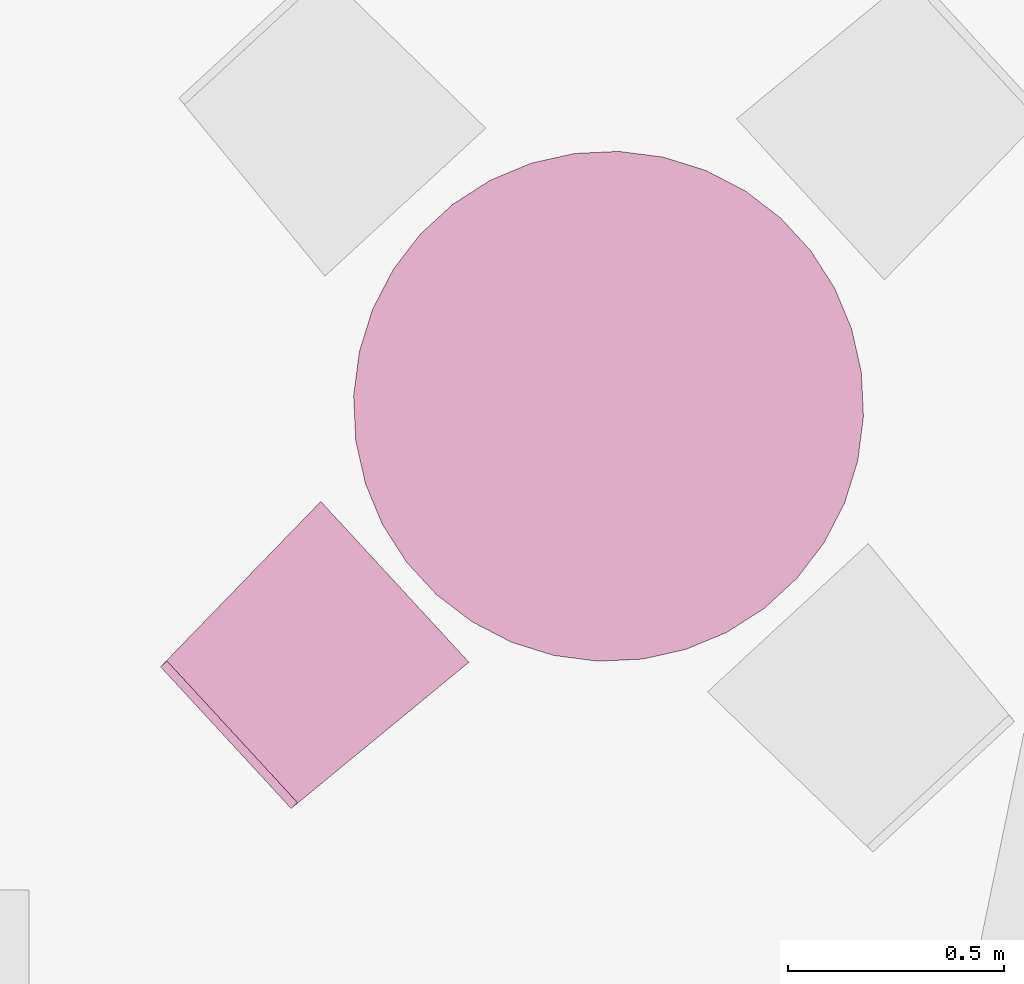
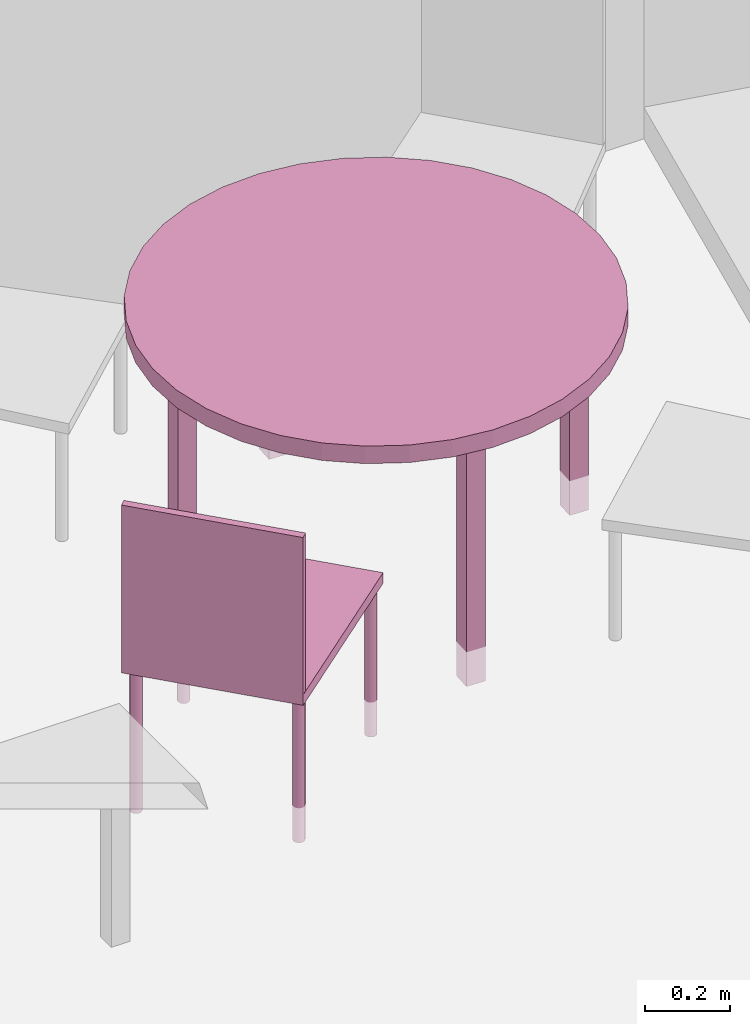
"""IFC4 building model written with IfcOpenShell, lengths in metres."""

from ifc_helpers import new_model, entity, si_unit, converted_unit, derived_unit, frame, origin, place, context, subcontext, project, spatial, faceted_brep, element, save


model = new_model("IFC4")

# Units and contexts
model_context = context("Model", 3, precision=1e-05, world=origin())
body_context = subcontext(model_context, "Body", "Model", "MODEL_VIEW")
ifc_project = project(units=[si_unit("LENGTHUNIT", "METRE"), si_unit("AREAUNIT", "SQUARE_METRE"), si_unit("VOLUMEUNIT", "CUBIC_METRE"), si_unit("MASSUNIT", "GRAM", prefix="KILO"), converted_unit("PLANEANGLEUNIT", "DEGREE", entity("IfcPlaneAngleMeasure", 0.0174532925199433), si_unit("PLANEANGLEUNIT", "RADIAN"), dimensions=[0, 0, 0, 0, 0, 0, 0]), derived_unit("THERMALTRANSMITTANCEUNIT", [(si_unit("POWERUNIT", "WATT"), 1), (si_unit("THERMODYNAMICTEMPERATUREUNIT", "KELVIN"), -1), (si_unit("LENGTHUNIT", "METRE"), -2)]), derived_unit("VOLUMETRICFLOWRATEUNIT", [(si_unit("LENGTHUNIT", "METRE"), 3), (converted_unit("TIMEUNIT", "hour", entity("IfcTimeMeasure", 3600.0), si_unit("TIMEUNIT", "SECOND"), dimensions=[0, 0, 1, 0, 0, 0, 0]), -1), (si_unit("LENGTHUNIT", "METRE"), -1)])], contexts=[model_context])

# Building, storeys
building_placement = place(None, origin())
building = spatial("IfcBuilding", under=ifc_project, at=building_placement, Name="HABITATGE PLURIFAMILIAR", CompositionType="ELEMENT")
storey_1_placement = place(building_placement, frame((0.0, 0.0, 12.27)))
storey_1 = spatial("IfcBuildingStorey", under=building, at=storey_1_placement, Name="PLANTA TERCERA", CompositionType="ELEMENT", Elevation=12.27)
storey_2_placement = place(storey_1_placement, frame((0.0, 0.0, 9.26)))
storey_2 = spatial("IfcBuildingStorey", under=storey_1, at=storey_2_placement, Name="NOU", CompositionType="PARTIAL")

# Furniture
furniture_1_placement = place(storey_2_placement, frame((423.769521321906, 21.0427604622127, -9.3599999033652)))
element("IfcFurniture", 1, at=furniture_1_placement, inside=storey_2, Name="Taula D120_P3", context=body_context, shape_type="Brep", body=[
    faceted_brep([(0.566234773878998, 0.0, 0.7), (0.669181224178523, 0.00472505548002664, 0.7), (0.769743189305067, 0.0272547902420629, 0.7), (0.864865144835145, 0.066904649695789, 0.7), (0.95165685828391, 0.122469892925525, 0.7), (1.02748120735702, 0.192262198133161, 0.7), (1.09003430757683, 0.274160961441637, 0.7), (1.13741551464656, 0.365677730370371, 0.7), (1.16818517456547, 0.46403181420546, 0.7), (1.18140836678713, 0.566234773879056, 0.7), (1.17668331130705, 0.669181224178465, 0.7), (1.15415357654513, 0.769743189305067, 0.7), (1.1145037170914, 0.864865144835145, 0.7), (1.05893847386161, 0.95165685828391, 0.7), (0.98914616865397, 1.02748120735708, 0.7), (0.907247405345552, 1.09003430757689, 0.7), (0.815730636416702, 1.13741551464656, 0.7), (0.717376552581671, 1.16818517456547, 0.7), (0.615173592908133, 1.18140836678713, 0.7), (0.512227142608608, 1.1766833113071, 0.7), (0.411665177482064, 1.15415357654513, 0.7), (0.316543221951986, 1.1145037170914, 0.7), (0.229751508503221, 1.05893847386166, 0.7), (0.15392715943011, 0.989146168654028, 0.7), (0.0913740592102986, 0.907247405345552, 0.7), (0.0439928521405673, 0.81573063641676, 0.7), (0.0132231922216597, 0.717376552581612, 0.7), (0.0, 0.615173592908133, 0.7), (0.00472505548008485, 0.512227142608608, 0.7), (0.0272547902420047, 0.411665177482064, 0.7), (0.0669046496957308, 0.316543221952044, 0.7), (0.122469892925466, 0.229751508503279, 0.7), (0.192262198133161, 0.15392715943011, 0.7), (0.274160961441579, 0.0913740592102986, 0.7), (0.365677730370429, 0.0439928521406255, 0.7), (0.46403181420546, 0.0132231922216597, 0.7), (0.566234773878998, 0.0, 0.75), (0.46403181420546, 0.0132231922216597, 0.75), (0.365677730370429, 0.0439928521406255, 0.75), (0.274160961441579, 0.0913740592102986, 0.75), (0.192262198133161, 0.15392715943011, 0.75), (0.122469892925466, 0.229751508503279, 0.75), (0.0669046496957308, 0.316543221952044, 0.75), (0.0272547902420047, 0.411665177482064, 0.75), (0.00472505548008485, 0.512227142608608, 0.75), (0.0, 0.615173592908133, 0.75), (0.0132231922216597, 0.717376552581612, 0.75), (0.0439928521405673, 0.81573063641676, 0.75), (0.0913740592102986, 0.907247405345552, 0.75), (0.15392715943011, 0.989146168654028, 0.75), (0.229751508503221, 1.05893847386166, 0.75), (0.316543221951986, 1.1145037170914, 0.75), (0.411665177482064, 1.15415357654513, 0.75), (0.512227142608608, 1.1766833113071, 0.75), (0.615173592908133, 1.18140836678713, 0.75), (0.717376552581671, 1.16818517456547, 0.75), (0.815730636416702, 1.13741551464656, 0.75), (0.907247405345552, 1.09003430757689, 0.75), (0.98914616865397, 1.02748120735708, 0.75), (1.05893847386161, 0.95165685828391, 0.75), (1.1145037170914, 0.864865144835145, 0.75), (1.15415357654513, 0.769743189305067, 0.75), (1.17668331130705, 0.669181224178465, 0.75), (1.18140836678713, 0.566234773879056, 0.75), (1.16818517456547, 0.46403181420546, 0.75), (1.13741551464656, 0.365677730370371, 0.75), (1.09003430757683, 0.274160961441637, 0.75), (1.02748120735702, 0.192262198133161, 0.75), (0.95165685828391, 0.122469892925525, 0.75), (0.864865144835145, 0.066904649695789, 0.75), (0.769743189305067, 0.0272547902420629, 0.75), (0.669181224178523, 0.00472505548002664, 0.75)], [[[0, 1, 2, 3, 4, 5, 6, 7, 8, 9, 10, 11, 12, 13, 14, 15, 16, 17, 18, 19, 20, 21, 22, 23, 24, 25, 26, 27, 28, 29, 30, 31, 32, 33, 34, 35]], [[36, 37, 38, 39, 40, 41, 42, 43, 44, 45, 46, 47, 48, 49, 50, 51, 52, 53, 54, 55, 56, 57, 58, 59, 60, 61, 62, 63, 64, 65, 66, 67, 68, 69, 70, 71]], [[1, 0, 36, 71]], [[2, 1, 71, 70]], [[3, 2, 70, 69]], [[4, 3, 69, 68]], [[5, 4, 68, 67]], [[6, 5, 67, 66]], [[7, 6, 66, 65]], [[8, 7, 65, 64]], [[9, 8, 64, 63]], [[10, 9, 63, 62]], [[11, 10, 62, 61]], [[12, 11, 61, 60]], [[13, 12, 60, 59]], [[14, 13, 59, 58]], [[15, 14, 58, 57]], [[16, 15, 57, 56]], [[17, 16, 56, 55]], [[18, 17, 55, 54]], [[19, 18, 54, 53]], [[20, 19, 53, 52]], [[21, 20, 52, 51]], [[22, 21, 51, 50]], [[23, 22, 50, 49]], [[24, 23, 49, 48]], [[25, 24, 48, 47]], [[26, 25, 47, 46]], [[27, 26, 46, 45]], [[28, 27, 45, 44]], [[29, 28, 44, 43]], [[30, 29, 43, 42]], [[31, 30, 42, 41]], [[32, 31, 41, 40]], [[33, 32, 40, 39]], [[34, 33, 39, 38]], [[35, 34, 38, 37]], [[0, 35, 37, 36]]], orient=[[False], [False], [False], [False], [False], [False], [False], [False], [False], [False], [False], [False], [False], [False], [False], [False], [False], [False], [False], [False], [False], [False], [False], [False], [False], [False], [False], [False], [False], [False], [False], [False], [False], [False], [False], [False], [False], [False]]),
    faceted_brep([(1.13402659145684, 0.582336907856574, 0.0), (1.08406943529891, 0.584406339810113, 0.0), (1.08200000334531, 0.534449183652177, 0.0), (1.1319571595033, 0.532379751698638, 0.0), (1.08406943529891, 0.584406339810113, 0.7), (1.13402659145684, 0.582336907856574, 0.7), (1.1319571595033, 0.532379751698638, 0.7), (1.08200000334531, 0.534449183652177, 0.7)], [[[0, 1, 2, 3]], [[4, 5, 6, 7]], [[1, 0, 5, 4]], [[2, 1, 4, 7]], [[3, 2, 7, 6]], [[0, 3, 6, 5]]], orient=[[False], [False], [False], [False], [False], [False]]),
    faceted_brep([(0.638184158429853, 1.13286481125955, 0.0), (0.588227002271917, 1.13493424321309, 0.0), (0.586157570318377, 1.08497708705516, 0.0), (0.636114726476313, 1.08290765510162, 0.0), (0.588227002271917, 1.13493424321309, 0.7), (0.638184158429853, 1.13286481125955, 0.7), (0.636114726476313, 1.08290765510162, 0.7), (0.586157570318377, 1.08497708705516, 0.7)], [[[0, 1, 2, 3]], [[4, 5, 6, 7]], [[1, 0, 5, 4]], [[2, 1, 4, 7]], [[3, 2, 7, 6]], [[0, 3, 6, 5]]], orient=[[False], [False], [False], [False], [False], [False]]),
    faceted_brep([(0.574688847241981, 0.0976411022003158, 0.0), (0.524731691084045, 0.0997105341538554, 0.0), (0.522662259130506, 0.0497533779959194, 0.0), (0.572619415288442, 0.0476839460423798, 0.0), (0.524731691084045, 0.0997105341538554, 0.7), (0.574688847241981, 0.0976411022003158, 0.7), (0.572619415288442, 0.0476839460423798, 0.7), (0.522662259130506, 0.0497533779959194, 0.7)], [[[0, 1, 2, 3]], [[4, 5, 6, 7]], [[1, 0, 5, 4]], [[2, 1, 4, 7]], [[3, 2, 7, 6]], [[0, 3, 6, 5]]], orient=[[False], [False], [False], [False], [False], [False]]),
    faceted_brep([(0.098150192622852, 0.625247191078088, 0.0), (0.0481930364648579, 0.627316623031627, 0.0), (0.0461236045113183, 0.577359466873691, 0.0), (0.0960807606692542, 0.575290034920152, 0.0), (0.0481930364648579, 0.627316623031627, 0.7), (0.098150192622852, 0.625247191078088, 0.7), (0.0960807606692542, 0.575290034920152, 0.7), (0.0461236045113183, 0.577359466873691, 0.7)], [[[0, 1, 2, 3]], [[4, 5, 6, 7]], [[1, 0, 5, 4]], [[2, 1, 4, 7]], [[3, 2, 7, 6]], [[0, 3, 6, 5]]], orient=[[False], [False], [False], [False], [False], [False]]),
])
furniture_2_placement = place(storey_2_placement, frame((423.322068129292, 20.7014725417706, -9.36074913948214)))
element("IfcFurniture", 2, at=furniture_2_placement, inside=storey_2, Name="Cadira confident_P3", context=body_context, shape_type="Brep", body=[
    faceted_brep([(0.359177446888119, 0.687513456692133, 0.0), (0.357422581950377, 0.685589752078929, 0.0), (0.356028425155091, 0.683390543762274, 0.0), (0.355037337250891, 0.680982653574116, 0.0), (0.354479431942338, 0.678439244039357, 0.0), (0.354371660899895, 0.675837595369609, 0.0), (0.354717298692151, 0.673256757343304, 0.0), (0.355505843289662, 0.67077514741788, 0.0), (0.35671333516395, 0.668468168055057, 0.0), (0.358303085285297, 0.666405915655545, 0.0), (0.3602267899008, 0.664651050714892, 0.0), (0.362425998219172, 0.663256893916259, 0.0), (0.364833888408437, 0.662265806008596, 0.0), (0.367377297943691, 0.661707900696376, 0.0), (0.369978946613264, 0.661600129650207, 0.0), (0.372559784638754, 0.661945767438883, 0.0), (0.375041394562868, 0.662734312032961, 0.0), (0.377348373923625, 0.663941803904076, 0.0), (0.379410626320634, 0.665531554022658, 0.0), (0.381165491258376, 0.66745525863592, 0.0), (0.382559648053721, 0.669654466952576, 0.0), (0.383550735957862, 0.672062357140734, 0.0), (0.384108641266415, 0.674605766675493, 0.0), (0.3842164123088, 0.677207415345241, 0.0), (0.383870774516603, 0.679788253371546, 0.0), (0.383082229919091, 0.68226986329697, 0.0), (0.381874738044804, 0.684576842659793, 0.0), (0.380284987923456, 0.686639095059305, 0.0), (0.378361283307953, 0.688393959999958, 0.0), (0.376162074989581, 0.689788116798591, 0.0), (0.373754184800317, 0.690779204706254, 0.0), (0.371210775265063, 0.691337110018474, 0.0), (0.368609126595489, 0.691444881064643, 0.0), (0.366028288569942, 0.691099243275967, 0.0), (0.363546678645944, 0.690310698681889, 0.0), (0.361239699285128, 0.689103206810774, 0.0), (0.359177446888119, 0.687513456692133, 0.448281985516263), (0.361239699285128, 0.689103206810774, 0.448281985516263), (0.363546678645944, 0.690310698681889, 0.448281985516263), (0.366028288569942, 0.691099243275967, 0.448281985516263), (0.368609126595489, 0.691444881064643, 0.448281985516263), (0.371210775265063, 0.691337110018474, 0.448281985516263), (0.373754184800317, 0.690779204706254, 0.448281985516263), (0.376162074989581, 0.689788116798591, 0.448281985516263), (0.378361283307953, 0.688393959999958, 0.448281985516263), (0.380284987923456, 0.686639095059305, 0.448281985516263), (0.381874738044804, 0.684576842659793, 0.448281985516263), (0.383082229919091, 0.68226986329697, 0.448281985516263), (0.383870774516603, 0.679788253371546, 0.448281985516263), (0.3842164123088, 0.677207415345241, 0.448281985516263), (0.384108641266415, 0.674605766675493, 0.448281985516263), (0.383550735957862, 0.672062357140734, 0.448281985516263), (0.382559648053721, 0.669654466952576, 0.448281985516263), (0.381165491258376, 0.66745525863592, 0.448281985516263), (0.379410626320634, 0.665531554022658, 0.448281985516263), (0.377348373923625, 0.663941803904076, 0.448281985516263), (0.375041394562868, 0.662734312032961, 0.448281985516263), (0.372559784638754, 0.661945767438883, 0.448281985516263), (0.369978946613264, 0.661600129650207, 0.448281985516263), (0.367377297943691, 0.661707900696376, 0.448281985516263), (0.364833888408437, 0.662265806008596, 0.448281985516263), (0.362425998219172, 0.663256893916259, 0.448281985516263), (0.3602267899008, 0.664651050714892, 0.448281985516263), (0.358303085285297, 0.666405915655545, 0.448281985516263), (0.35671333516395, 0.668468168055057, 0.448281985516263), (0.355505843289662, 0.67077514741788, 0.448281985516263), (0.354717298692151, 0.673256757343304, 0.448281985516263), (0.354371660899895, 0.675837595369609, 0.448281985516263), (0.354479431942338, 0.678439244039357, 0.448281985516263), (0.355037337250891, 0.680982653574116, 0.448281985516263), (0.356028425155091, 0.683390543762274, 0.448281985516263), (0.357422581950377, 0.685589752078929, 0.448281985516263)], [[[0, 1, 2, 3, 4, 5, 6, 7, 8, 9, 10, 11, 12, 13, 14, 15, 16, 17, 18, 19, 20, 21, 22, 23, 24, 25, 26, 27, 28, 29, 30, 31, 32, 33, 34, 35]], [[36, 37, 38, 39, 40, 41, 42, 43, 44, 45, 46, 47, 48, 49, 50, 51, 52, 53, 54, 55, 56, 57, 58, 59, 60, 61, 62, 63, 64, 65, 66, 67, 68, 69, 70, 71]], [[1, 0, 36, 71]], [[2, 1, 71, 70]], [[3, 2, 70, 69]], [[4, 3, 69, 68]], [[5, 4, 68, 67]], [[6, 5, 67, 66]], [[7, 6, 66, 65]], [[8, 7, 65, 64]], [[9, 8, 64, 63]], [[10, 9, 63, 62]], [[11, 10, 62, 61]], [[12, 11, 61, 60]], [[13, 12, 60, 59]], [[14, 13, 59, 58]], [[15, 14, 58, 57]], [[16, 15, 57, 56]], [[17, 16, 56, 55]], [[18, 17, 55, 54]], [[19, 18, 54, 53]], [[20, 19, 53, 52]], [[21, 20, 52, 51]], [[22, 21, 51, 50]], [[23, 22, 50, 49]], [[24, 23, 49, 48]], [[25, 24, 48, 47]], [[26, 25, 47, 46]], [[27, 26, 46, 45]], [[28, 27, 45, 44]], [[29, 28, 44, 43]], [[30, 29, 43, 42]], [[31, 30, 42, 41]], [[32, 31, 41, 40]], [[33, 32, 40, 39]], [[34, 33, 39, 38]], [[35, 34, 38, 37]], [[0, 35, 37, 36]]], orient=[[False], [False], [False], [False], [False], [False], [False], [False], [False], [False], [False], [False], [False], [False], [False], [False], [False], [False], [False], [False], [False], [False], [False], [False], [False], [False], [False], [False], [False], [False], [False], [False], [False], [False], [False], [False], [False], [False]]),
    faceted_brep([(0.0378673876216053, 0.353830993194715, 0.0), (0.0361125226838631, 0.351907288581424, 0.0), (0.0347183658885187, 0.349708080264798, 0.0), (0.033727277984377, 0.347300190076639, 0.0), (0.033169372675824, 0.34475678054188, 0.0), (0.0330616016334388, 0.342155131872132, 0.0), (0.0334072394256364, 0.339574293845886, 0.0), (0.0341957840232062, 0.337092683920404, 0.0), (0.0354032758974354, 0.33478570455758, 0.0), (0.036993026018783, 0.332723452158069, 0.0), (0.0389167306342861, 0.330968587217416, 0.0), (0.0411159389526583, 0.329574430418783, 0.0), (0.0435238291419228, 0.32858334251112, 0.0), (0.0460672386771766, 0.328025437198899, 0.0), (0.0486688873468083, 0.327917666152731, 0.0), (0.0512497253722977, 0.328263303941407, 0.0), (0.0537313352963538, 0.329051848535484, 0.0), (0.0560383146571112, 0.33025934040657, 0.0), (0.0581005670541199, 0.33184909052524, 0.0), (0.0598554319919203, 0.333772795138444, 0.0), (0.0612495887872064, 0.335972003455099, 0.0), (0.0622406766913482, 0.338379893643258, 0.0), (0.0627985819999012, 0.340923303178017, 0.0), (0.0629063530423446, 0.343524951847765, 0.0), (0.0625607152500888, 0.346105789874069, 0.0), (0.0617721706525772, 0.348587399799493, 0.0), (0.0605646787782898, 0.350894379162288, 0.0), (0.0589749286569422, 0.352956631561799, 0.0), (0.0570512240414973, 0.354711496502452, 0.0), (0.0548520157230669, 0.356105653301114, 0.0), (0.0524441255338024, 0.357096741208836, 0.0), (0.0499007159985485, 0.357654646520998, 0.0), (0.0472990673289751, 0.357762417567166, 0.0), (0.0447182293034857, 0.35741677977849, 0.0), (0.0422366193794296, 0.356628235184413, 0.0), (0.039929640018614, 0.355420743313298, 0.0), (0.0378673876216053, 0.353830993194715, 0.448281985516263), (0.039929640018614, 0.355420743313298, 0.448281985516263), (0.0422366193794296, 0.356628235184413, 0.448281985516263), (0.0447182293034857, 0.35741677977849, 0.448281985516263), (0.0472990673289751, 0.357762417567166, 0.448281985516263), (0.0499007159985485, 0.357654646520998, 0.448281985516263), (0.0524441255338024, 0.357096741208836, 0.448281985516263), (0.0548520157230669, 0.356105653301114, 0.448281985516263), (0.0570512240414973, 0.354711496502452, 0.448281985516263), (0.0589749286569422, 0.352956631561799, 0.448281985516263), (0.0605646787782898, 0.350894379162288, 0.448281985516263), (0.0617721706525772, 0.348587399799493, 0.448281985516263), (0.0625607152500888, 0.346105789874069, 0.448281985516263), (0.0629063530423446, 0.343524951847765, 0.448281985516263), (0.0627985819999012, 0.340923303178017, 0.448281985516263), (0.0622406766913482, 0.338379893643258, 0.448281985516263), (0.0612495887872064, 0.335972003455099, 0.448281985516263), (0.0598554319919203, 0.333772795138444, 0.448281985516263), (0.0581005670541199, 0.33184909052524, 0.448281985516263), (0.0560383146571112, 0.33025934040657, 0.448281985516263), (0.0537313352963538, 0.329051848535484, 0.448281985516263), (0.0512497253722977, 0.328263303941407, 0.448281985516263), (0.0486688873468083, 0.327917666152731, 0.448281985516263), (0.0460672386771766, 0.328025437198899, 0.448281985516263), (0.0435238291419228, 0.32858334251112, 0.448281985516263), (0.0411159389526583, 0.329574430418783, 0.448281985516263), (0.0389167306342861, 0.330968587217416, 0.448281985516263), (0.036993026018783, 0.332723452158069, 0.448281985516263), (0.0354032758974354, 0.33478570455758, 0.448281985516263), (0.0341957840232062, 0.337092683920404, 0.448281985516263), (0.0334072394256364, 0.339574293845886, 0.448281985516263), (0.0330616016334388, 0.342155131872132, 0.448281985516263), (0.033169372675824, 0.34475678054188, 0.448281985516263), (0.033727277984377, 0.347300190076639, 0.448281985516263), (0.0347183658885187, 0.349708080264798, 0.448281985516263), (0.0361125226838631, 0.351907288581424, 0.448281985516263)], [[[0, 1, 2, 3, 4, 5, 6, 7, 8, 9, 10, 11, 12, 13, 14, 15, 16, 17, 18, 19, 20, 21, 22, 23, 24, 25, 26, 27, 28, 29, 30, 31, 32, 33, 34, 35]], [[36, 37, 38, 39, 40, 41, 42, 43, 44, 45, 46, 47, 48, 49, 50, 51, 52, 53, 54, 55, 56, 57, 58, 59, 60, 61, 62, 63, 64, 65, 66, 67, 68, 69, 70, 71]], [[1, 0, 36, 71]], [[2, 1, 71, 70]], [[3, 2, 70, 69]], [[4, 3, 69, 68]], [[5, 4, 68, 67]], [[6, 5, 67, 66]], [[7, 6, 66, 65]], [[8, 7, 65, 64]], [[9, 8, 64, 63]], [[10, 9, 63, 62]], [[11, 10, 62, 61]], [[12, 11, 61, 60]], [[13, 12, 60, 59]], [[14, 13, 59, 58]], [[15, 14, 58, 57]], [[16, 15, 57, 56]], [[17, 16, 56, 55]], [[18, 17, 55, 54]], [[19, 18, 54, 53]], [[20, 19, 53, 52]], [[21, 20, 52, 51]], [[22, 21, 51, 50]], [[23, 22, 50, 49]], [[24, 23, 49, 48]], [[25, 24, 48, 47]], [[26, 25, 47, 46]], [[27, 26, 46, 45]], [[28, 27, 45, 44]], [[29, 28, 44, 43]], [[30, 29, 43, 42]], [[31, 30, 42, 41]], [[32, 31, 41, 40]], [[33, 32, 40, 39]], [[34, 33, 39, 38]], [[35, 34, 38, 37]], [[0, 35, 37, 36]]], orient=[[False], [False], [False], [False], [False], [False], [False], [False], [False], [False], [False], [False], [False], [False], [False], [False], [False], [False], [False], [False], [False], [False], [False], [False], [False], [False], [False], [False], [False], [False], [False], [False], [False], [False], [False], [False], [False], [False]]),
    faceted_brep([(0.670904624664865, 0.349244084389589, 0.0), (0.669149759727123, 0.347320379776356, 0.0), (0.667755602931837, 0.34512117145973, 0.0), (0.666764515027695, 0.342713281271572, 0.0), (0.666206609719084, 0.340169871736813, 0.0), (0.666098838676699, 0.337568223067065, 0.0), (0.666444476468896, 0.33498738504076, 0.0), (0.667233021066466, 0.332505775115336, 0.0), (0.668440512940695, 0.330198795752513, 0.0), (0.670030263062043, 0.328136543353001, 0.0), (0.671953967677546, 0.326381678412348, 0.0), (0.674153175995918, 0.324987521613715, 0.0), (0.676561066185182, 0.323996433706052, 0.0), (0.679104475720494, 0.323438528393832, 0.0), (0.681706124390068, 0.323330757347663, 0.0), (0.684286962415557, 0.323676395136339, 0.0), (0.686768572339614, 0.324464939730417, 0.0), (0.689075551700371, 0.325672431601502, 0.0), (0.691137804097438, 0.327262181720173, 0.0), (0.69289266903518, 0.329185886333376, 0.0), (0.694286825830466, 0.331385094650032, 0.0), (0.695277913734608, 0.33379298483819, 0.0), (0.695835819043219, 0.336336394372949, 0.0), (0.695943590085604, 0.338938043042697, 0.0), (0.695597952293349, 0.341518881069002, 0.0), (0.694809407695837, 0.344000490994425, 0.0), (0.693601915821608, 0.34630747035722, 0.0), (0.692012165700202, 0.348369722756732, 0.0), (0.690088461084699, 0.350124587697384, 0.0), (0.687889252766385, 0.351518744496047, 0.0), (0.685481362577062, 0.35250983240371, 0.0), (0.682937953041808, 0.35306773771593, 0.0), (0.680336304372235, 0.353175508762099, 0.0), (0.677755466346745, 0.352829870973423, 0.0), (0.675273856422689, 0.352041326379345, 0.0), (0.672966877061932, 0.35083383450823, 0.0), (0.670904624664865, 0.349244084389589, 0.448281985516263), (0.672966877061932, 0.35083383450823, 0.448281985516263), (0.675273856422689, 0.352041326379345, 0.448281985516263), (0.677755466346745, 0.352829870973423, 0.448281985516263), (0.680336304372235, 0.353175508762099, 0.448281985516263), (0.682937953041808, 0.35306773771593, 0.448281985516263), (0.685481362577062, 0.35250983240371, 0.448281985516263), (0.687889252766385, 0.351518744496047, 0.448281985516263), (0.690088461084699, 0.350124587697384, 0.448281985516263), (0.692012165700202, 0.348369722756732, 0.448281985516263), (0.693601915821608, 0.34630747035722, 0.448281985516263), (0.694809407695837, 0.344000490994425, 0.448281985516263), (0.695597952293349, 0.341518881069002, 0.448281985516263), (0.695943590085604, 0.338938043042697, 0.448281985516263), (0.695835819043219, 0.336336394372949, 0.448281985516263), (0.695277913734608, 0.33379298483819, 0.448281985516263), (0.694286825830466, 0.331385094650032, 0.448281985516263), (0.69289266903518, 0.329185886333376, 0.448281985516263), (0.691137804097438, 0.327262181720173, 0.448281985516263), (0.689075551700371, 0.325672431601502, 0.448281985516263), (0.686768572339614, 0.324464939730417, 0.448281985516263), (0.684286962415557, 0.323676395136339, 0.448281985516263), (0.681706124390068, 0.323330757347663, 0.448281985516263), (0.679104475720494, 0.323438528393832, 0.448281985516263), (0.676561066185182, 0.323996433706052, 0.448281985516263), (0.674153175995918, 0.324987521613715, 0.448281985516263), (0.671953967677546, 0.326381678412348, 0.448281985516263), (0.670030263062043, 0.328136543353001, 0.448281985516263), (0.668440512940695, 0.330198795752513, 0.448281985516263), (0.667233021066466, 0.332505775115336, 0.448281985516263), (0.666444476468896, 0.33498738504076, 0.448281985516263), (0.666098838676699, 0.337568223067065, 0.448281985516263), (0.666206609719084, 0.340169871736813, 0.448281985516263), (0.666764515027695, 0.342713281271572, 0.448281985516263), (0.667755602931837, 0.34512117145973, 0.448281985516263), (0.669149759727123, 0.347320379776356, 0.448281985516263)], [[[0, 1, 2, 3, 4, 5, 6, 7, 8, 9, 10, 11, 12, 13, 14, 15, 16, 17, 18, 19, 20, 21, 22, 23, 24, 25, 26, 27, 28, 29, 30, 31, 32, 33, 34, 35]], [[36, 37, 38, 39, 40, 41, 42, 43, 44, 45, 46, 47, 48, 49, 50, 51, 52, 53, 54, 55, 56, 57, 58, 59, 60, 61, 62, 63, 64, 65, 66, 67, 68, 69, 70, 71]], [[1, 0, 36, 71]], [[2, 1, 71, 70]], [[3, 2, 70, 69]], [[4, 3, 69, 68]], [[5, 4, 68, 67]], [[6, 5, 67, 66]], [[7, 6, 66, 65]], [[8, 7, 65, 64]], [[9, 8, 64, 63]], [[10, 9, 63, 62]], [[11, 10, 62, 61]], [[12, 11, 61, 60]], [[13, 12, 60, 59]], [[14, 13, 59, 58]], [[15, 14, 58, 57]], [[16, 15, 57, 56]], [[17, 16, 56, 55]], [[18, 17, 55, 54]], [[19, 18, 54, 53]], [[20, 19, 53, 52]], [[21, 20, 52, 51]], [[22, 21, 51, 50]], [[23, 22, 50, 49]], [[24, 23, 49, 48]], [[25, 24, 48, 47]], [[26, 25, 47, 46]], [[27, 26, 46, 45]], [[28, 27, 45, 44]], [[29, 28, 44, 43]], [[30, 29, 43, 42]], [[31, 30, 42, 41]], [[32, 31, 41, 40]], [[33, 32, 40, 39]], [[34, 33, 39, 38]], [[35, 34, 38, 37]], [[0, 35, 37, 36]]], orient=[[False], [False], [False], [False], [False], [False], [False], [False], [False], [False], [False], [False], [False], [False], [False], [False], [False], [False], [False], [False], [False], [False], [False], [False], [False], [False], [False], [False], [False], [False], [False], [False], [False], [False], [False], [False], [False], [False]]),
    faceted_brep([(0.308934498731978, 0.0596837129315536, 0.0), (0.307179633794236, 0.0577600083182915, 0.0), (0.305785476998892, 0.0555608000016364, 0.0), (0.30479438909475, 0.0531529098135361, 0.0), (0.304236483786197, 0.0506095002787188, 0.0), (0.304128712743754, 0.0480078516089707, 0.0), (0.304474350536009, 0.0454270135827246, 0.0), (0.305262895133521, 0.0429454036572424, 0.0), (0.306470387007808, 0.0406384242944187, 0.0), (0.308060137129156, 0.038576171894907, 0.0), (0.309983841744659, 0.0368213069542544, 0.0), (0.312183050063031, 0.0354271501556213, 0.0), (0.314590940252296, 0.034436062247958, 0.0), (0.31713434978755, 0.0338781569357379, 0.0), (0.319735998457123, 0.0337703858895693, 0.0), (0.322316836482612, 0.0341160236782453, 0.0), (0.324798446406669, 0.0349045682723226, 0.0), (0.327105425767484, 0.0361120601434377, 0.0), (0.329167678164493, 0.0377018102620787, 0.0), (0.330922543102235, 0.0396255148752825, 0.0), (0.332316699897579, 0.0418247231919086, 0.0), (0.333307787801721, 0.0442326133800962, 0.0), (0.333865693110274, 0.0467760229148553, 0.0), (0.333973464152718, 0.0493776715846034, 0.0), (0.333627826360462, 0.0519585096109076, 0.0), (0.332839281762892, 0.0544401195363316, 0.0), (0.331631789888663, 0.0567470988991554, 0.0), (0.330042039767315, 0.0588093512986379, 0.0), (0.328118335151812, 0.0605642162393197, 0.0), (0.32591912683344, 0.0619583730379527, 0.0), (0.323511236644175, 0.0629494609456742, 0.0), (0.320967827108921, 0.0635073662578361, 0.0), (0.31836617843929, 0.0636151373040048, 0.0), (0.3157853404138, 0.063269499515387, 0.0), (0.313303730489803, 0.0624809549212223, 0.0), (0.310996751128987, 0.0612734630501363, 0.0), (0.308934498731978, 0.0596837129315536, 0.448281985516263), (0.310996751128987, 0.0612734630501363, 0.448281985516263), (0.313303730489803, 0.0624809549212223, 0.448281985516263), (0.3157853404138, 0.063269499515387, 0.448281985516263), (0.31836617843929, 0.0636151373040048, 0.448281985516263), (0.320967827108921, 0.0635073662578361, 0.448281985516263), (0.323511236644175, 0.0629494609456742, 0.448281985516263), (0.32591912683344, 0.0619583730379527, 0.448281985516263), (0.328118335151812, 0.0605642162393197, 0.448281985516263), (0.330042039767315, 0.0588093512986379, 0.448281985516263), (0.331631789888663, 0.0567470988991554, 0.448281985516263), (0.332839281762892, 0.0544401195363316, 0.448281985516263), (0.333627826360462, 0.0519585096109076, 0.448281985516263), (0.333973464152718, 0.0493776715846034, 0.448281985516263), (0.333865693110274, 0.0467760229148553, 0.448281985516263), (0.333307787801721, 0.0442326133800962, 0.448281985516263), (0.332316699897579, 0.0418247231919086, 0.448281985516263), (0.330922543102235, 0.0396255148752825, 0.448281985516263), (0.329167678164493, 0.0377018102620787, 0.448281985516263), (0.327105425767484, 0.0361120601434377, 0.448281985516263), (0.324798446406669, 0.0349045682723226, 0.448281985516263), (0.322316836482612, 0.0341160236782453, 0.448281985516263), (0.319735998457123, 0.0337703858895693, 0.448281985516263), (0.31713434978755, 0.0338781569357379, 0.448281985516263), (0.314590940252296, 0.034436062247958, 0.448281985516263), (0.312183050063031, 0.0354271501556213, 0.448281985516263), (0.309983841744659, 0.0368213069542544, 0.448281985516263), (0.308060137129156, 0.038576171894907, 0.448281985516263), (0.306470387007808, 0.0406384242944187, 0.448281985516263), (0.305262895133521, 0.0429454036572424, 0.448281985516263), (0.304474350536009, 0.0454270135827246, 0.448281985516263), (0.304128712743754, 0.0480078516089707, 0.448281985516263), (0.304236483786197, 0.0506095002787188, 0.448281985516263), (0.30479438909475, 0.0531529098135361, 0.448281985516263), (0.305785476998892, 0.0555608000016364, 0.448281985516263), (0.307179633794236, 0.0577600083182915, 0.448281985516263)], [[[0, 1, 2, 3, 4, 5, 6, 7, 8, 9, 10, 11, 12, 13, 14, 15, 16, 17, 18, 19, 20, 21, 22, 23, 24, 25, 26, 27, 28, 29, 30, 31, 32, 33, 34, 35]], [[36, 37, 38, 39, 40, 41, 42, 43, 44, 45, 46, 47, 48, 49, 50, 51, 52, 53, 54, 55, 56, 57, 58, 59, 60, 61, 62, 63, 64, 65, 66, 67, 68, 69, 70, 71]], [[1, 0, 36, 71]], [[2, 1, 71, 70]], [[3, 2, 70, 69]], [[4, 3, 69, 68]], [[5, 4, 68, 67]], [[6, 5, 67, 66]], [[7, 6, 66, 65]], [[8, 7, 65, 64]], [[9, 8, 64, 63]], [[10, 9, 63, 62]], [[11, 10, 62, 61]], [[12, 11, 61, 60]], [[13, 12, 60, 59]], [[14, 13, 59, 58]], [[15, 14, 58, 57]], [[16, 15, 57, 56]], [[17, 16, 56, 55]], [[18, 17, 55, 54]], [[19, 18, 54, 53]], [[20, 19, 53, 52]], [[21, 20, 52, 51]], [[22, 21, 51, 50]], [[23, 22, 50, 49]], [[24, 23, 49, 48]], [[25, 24, 48, 47]], [[26, 25, 47, 46]], [[27, 26, 46, 45]], [[28, 27, 45, 44]], [[29, 28, 44, 43]], [[30, 29, 43, 42]], [[31, 30, 42, 41]], [[32, 31, 41, 40]], [[33, 32, 40, 39]], [[34, 33, 39, 38]], [[35, 34, 38, 37]], [[0, 35, 37, 36]]], orient=[[False], [False], [False], [False], [False], [False], [False], [False], [False], [False], [False], [False], [False], [False], [False], [False], [False], [False], [False], [False], [False], [False], [False], [False], [False], [False], [False], [False], [False], [False], [False], [False], [False], [False], [False], [False], [False], [False]]),
    faceted_brep([(0.302588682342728, 0.0, 0.418281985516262), (0.714581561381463, 0.33887010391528, 0.418281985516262), (0.371332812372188, 0.711344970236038, 0.418281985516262), (0.0, 0.328352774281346, 0.418281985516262), (0.714581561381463, 0.33887010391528, 0.448281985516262), (0.302588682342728, 0.0, 0.448281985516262), (0.0, 0.328352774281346, 0.448281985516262), (0.371332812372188, 0.711344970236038, 0.448281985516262)], [[[0, 1, 2, 3]], [[4, 5, 6, 7]], [[1, 0, 5, 4]], [[2, 1, 4, 7]], [[3, 2, 7, 6]], [[0, 3, 6, 5]]], orient=[[False], [False], [False], [False], [False], [False]]),
    faceted_brep([(0.317296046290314, 0.0135533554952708, 0.448281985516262), (0.0147073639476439, 0.341906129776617, 0.448281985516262), (0.0, 0.328352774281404, 0.448281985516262), (0.302588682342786, 0.0, 0.448281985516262), (0.0147073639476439, 0.341906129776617, 0.89828198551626), (0.317296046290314, 0.0135533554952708, 0.89828198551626), (0.302588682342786, 0.0, 0.89828198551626), (0.0, 0.328352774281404, 0.89828198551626)], [[[0, 1, 2, 3]], [[4, 5, 6, 7]], [[1, 0, 5, 4]], [[2, 1, 4, 7]], [[3, 2, 7, 6]], [[0, 3, 6, 5]]], orient=[[False], [False], [False], [False], [False], [False]]),
])

save(model, "model.ifc")
